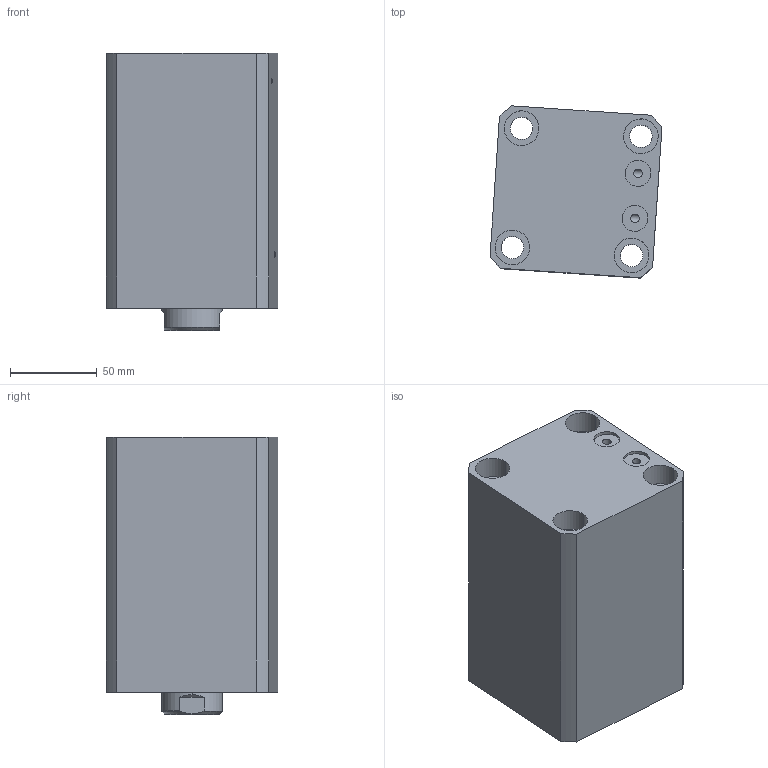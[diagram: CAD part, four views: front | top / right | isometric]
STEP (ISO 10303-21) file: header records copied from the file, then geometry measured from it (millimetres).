
FILE_DESCRIPTION (( 'STEP AP214' ), '1' );
FILE_NAME ('chtb-sdmb63x80n_asm.STEP', '2018-05-16T06:53:13', ( 'Windows' ), ( 'Microsoft' ), 'SwSTEP 2.0', 'SolidWorks 2015', '' );
FILE_SCHEMA (( 'AUTOMOTIVE_DESIGN' ));
Length unit declared in the file: millimetre
Products named in the file (4): CHTB-SDMB63X80NBT; CHTB63X80NHSG; CHTB-63QG; chtb-sdmb63x80n_asm
Assembly tree (3 placements, depth 2):
  chtb-sdmb63x80n_asm
    CHTB-63QG
    CHTB63X80NHSG
    CHTB-SDMB63X80NBT
Bounding box: 99.23 x 99.23 x 160 mm (x, y, z)
Volume: 1017274 mm3; surface area: 170537.7 mm2
Topology: 3 solids, 3 shells, 164 faces, 468 edges, 318 vertices
Faces by surface type: cylinder 107, plane 30, bspline 12, cone 8, torus 7
Entity records: 17708 total; most frequent: CARTESIAN_POINT 13594, ORIENTED_EDGE 924, DIRECTION 707, EDGE_CURVE 462, VERTEX_POINT 318, AXIS2_PLACEMENT_3D 284, EDGE_LOOP 196, ADVANCED_FACE 164
